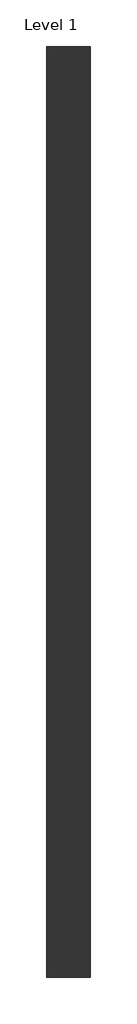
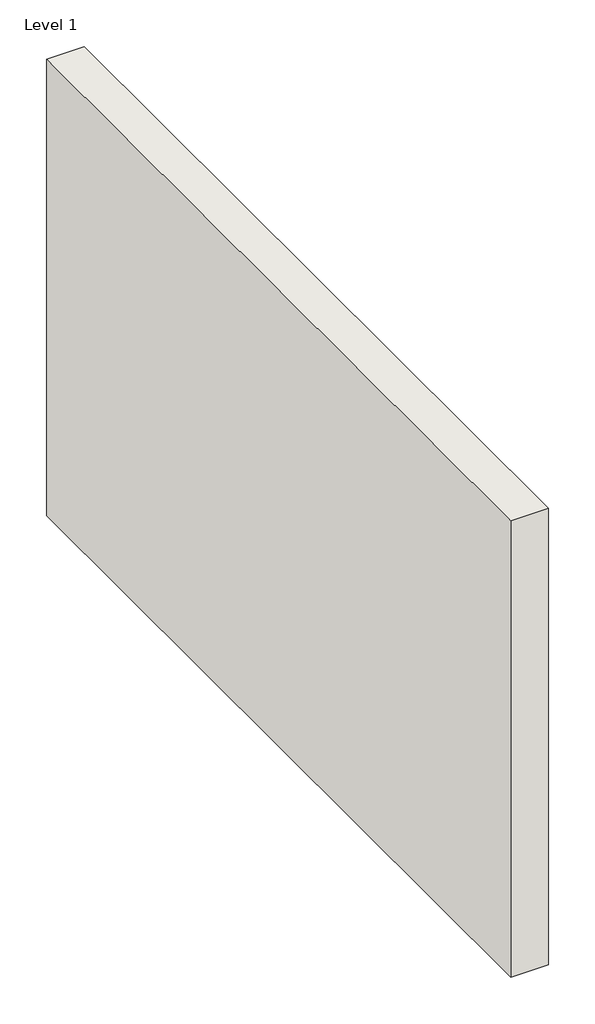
# One storey: 1 wall.
"""IFC4 building model written with IfcOpenShell, lengths in millimetres."""

from ifc_helpers import new_model, si_unit, origin, origin_with_axes, place, context, project, spatial, polyline, outline, extrude, element, save

model = new_model("IFC4")

# Units and contexts
model_context = context("Model", 3, world=origin())
ifc_project = project(units=[si_unit("LENGTHUNIT", "METRE", prefix="MILLI")], contexts=[model_context])

# Site, building, storey
site = spatial("IfcSite", under=ifc_project)
building = spatial("IfcBuilding", under=site)
storey = spatial("IfcBuildingStorey", under=building, Name="Level 1", Elevation=0.0)

# Wall
placement = place(None, origin())
element("IfcWall", 1, ObjectType="Exterior - StoneRox - Limestone", at=placement, inside=storey, context=model_context, shape_type="SweptSolid", body=[
    extrude(outline(polyline([(1695.7028529, 6132.6473875), (1695.7028529, 36.6473875), (1409.9528529, 36.6473875), (1409.9528529, 6132.6473875), (1695.7028529, 6132.6473875)])), origin_with_axes(), (0.0, 0.0, 1.0), 3657.6),
])

save(model, "model.ifc")
